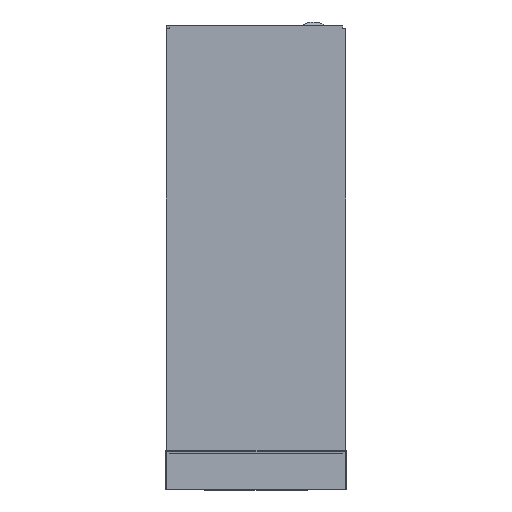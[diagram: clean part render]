
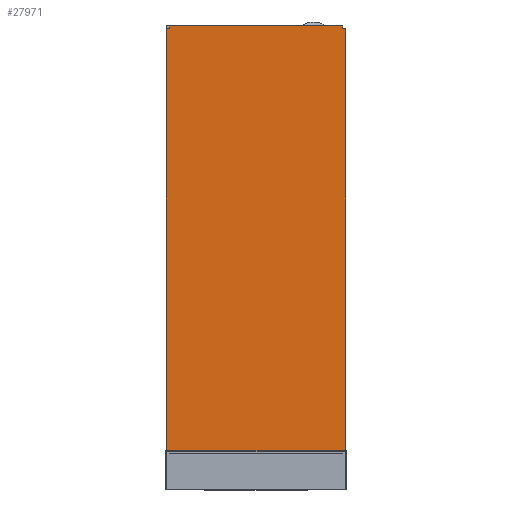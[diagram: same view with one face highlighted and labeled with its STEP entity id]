
A CAD part, left-side view. The second image highlights one B-rep face of the part: STEP entity #27971.
In plain terms, the highlighted planar face has unit normal (-1, 0, 0).
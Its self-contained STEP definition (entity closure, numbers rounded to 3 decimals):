
#27685=CARTESIAN_POINT('',(4.507,-787.008,176.06));
#27686=VERTEX_POINT('',#27685);
#27693=CARTESIAN_POINT('',(4.507,-787.008,163.06));
#27694=VERTEX_POINT('',#27693);
#27695=CARTESIAN_POINT('',(4.507,-787.008,163.06));
#27696=DIRECTION('',(0.0,0.0,1.0));
#27697=VECTOR('',#27696,13.);
#27698=LINE('',#27695,#27697);
#27699=EDGE_CURVE('',#27694,#27686,#27698,.T.);
#27715=CARTESIAN_POINT('',(4.507,-801.008,176.06));
#27716=VERTEX_POINT('',#27715);
#27733=CARTESIAN_POINT('',(4.507,-801.008,2050.06));
#27734=VERTEX_POINT('',#27733);
#27741=CARTESIAN_POINT('',(4.507,-801.008,2050.06));
#27742=DIRECTION('',(0.0,0.0,-1.0));
#27743=VECTOR('',#27742,1874.);
#27744=LINE('',#27741,#27743);
#27745=EDGE_CURVE('',#27734,#27716,#27744,.T.);
#27763=CARTESIAN_POINT('',(4.507,-801.008,176.06));
#27764=DIRECTION('',(0.0,1.0,0.0));
#27765=VECTOR('',#27764,14.0);
#27766=LINE('',#27763,#27765);
#27767=EDGE_CURVE('',#27716,#27686,#27766,.T.);
#27817=CARTESIAN_POINT('',(4.507,-17.007,163.06));
#27818=VERTEX_POINT('',#27817);
#27819=CARTESIAN_POINT('',(4.507,-17.007,176.06));
#27820=VERTEX_POINT('',#27819);
#27821=CARTESIAN_POINT('',(4.507,-17.007,163.06));
#27822=DIRECTION('',(0.0,0.0,1.0));
#27823=VECTOR('',#27822,13.);
#27824=LINE('',#27821,#27823);
#27825=EDGE_CURVE('',#27818,#27820,#27824,.T.);
#27857=CARTESIAN_POINT('',(4.507,-3.007,176.06));
#27858=VERTEX_POINT('',#27857);
#27859=CARTESIAN_POINT('',(4.507,-3.007,2050.06));
#27860=VERTEX_POINT('',#27859);
#27861=CARTESIAN_POINT('',(4.507,-3.007,176.06));
#27862=DIRECTION('',(0.0,0.0,1.0));
#27863=VECTOR('',#27862,1874.);
#27864=LINE('',#27861,#27863);
#27865=EDGE_CURVE('',#27858,#27860,#27864,.T.);
#27898=CARTESIAN_POINT('',(4.507,-3.007,176.06));
#27899=DIRECTION('',(0.0,-1.0,0.0));
#27900=VECTOR('',#27899,14.);
#27901=LINE('',#27898,#27900);
#27902=EDGE_CURVE('',#27858,#27820,#27901,.T.);
#27914=CARTESIAN_POINT('',(4.507,-1907.625,161.06));
#27915=DIRECTION('',(-1.0,0.0,0.0));
#27916=DIRECTION('',(0.0,-1.0,0.0));
#27917=AXIS2_PLACEMENT_3D('',#27914,#27915,#27916);
#27918=PLANE('',#27917);
#27919=CARTESIAN_POINT('',(4.507,-17.007,163.06));
#27920=DIRECTION('',(0.0,-1.0,0.0));
#27921=VECTOR('',#27920,770.);
#27922=LINE('',#27919,#27921);
#27923=EDGE_CURVE('',#27818,#27694,#27922,.T.);
#27924=ORIENTED_EDGE('',*,*,#27923,.T.);
#27925=ORIENTED_EDGE('',*,*,#27699,.T.);
#27926=ORIENTED_EDGE('',*,*,#27767,.F.);
#27927=ORIENTED_EDGE('',*,*,#27745,.F.);
#27928=CARTESIAN_POINT('',(4.507,-787.008,2050.06));
#27929=VERTEX_POINT('',#27928);
#27930=CARTESIAN_POINT('',(4.507,-801.008,2050.06));
#27931=DIRECTION('',(0.0,1.0,0.0));
#27932=VECTOR('',#27931,14.0);
#27933=LINE('',#27930,#27932);
#27934=EDGE_CURVE('',#27734,#27929,#27933,.T.);
#27935=ORIENTED_EDGE('',*,*,#27934,.T.);
#27936=CARTESIAN_POINT('',(4.507,-787.008,2063.06));
#27937=VERTEX_POINT('',#27936);
#27938=CARTESIAN_POINT('',(4.507,-787.008,2063.06));
#27939=DIRECTION('',(0.0,0.0,-1.0));
#27940=VECTOR('',#27939,13.0);
#27941=LINE('',#27938,#27940);
#27942=EDGE_CURVE('',#27937,#27929,#27941,.T.);
#27943=ORIENTED_EDGE('',*,*,#27942,.F.);
#27944=CARTESIAN_POINT('',(4.507,-17.007,2063.06));
#27945=VERTEX_POINT('',#27944);
#27946=CARTESIAN_POINT('',(4.507,-17.007,2063.06));
#27947=DIRECTION('',(0.0,-1.0,0.0));
#27948=VECTOR('',#27947,770.);
#27949=LINE('',#27946,#27948);
#27950=EDGE_CURVE('',#27945,#27937,#27949,.T.);
#27951=ORIENTED_EDGE('',*,*,#27950,.F.);
#27952=CARTESIAN_POINT('',(4.507,-17.007,2050.06));
#27953=VERTEX_POINT('',#27952);
#27954=CARTESIAN_POINT('',(4.507,-17.007,2063.06));
#27955=DIRECTION('',(0.0,0.0,-1.0));
#27956=VECTOR('',#27955,13.0);
#27957=LINE('',#27954,#27956);
#27958=EDGE_CURVE('',#27945,#27953,#27957,.T.);
#27959=ORIENTED_EDGE('',*,*,#27958,.T.);
#27960=CARTESIAN_POINT('',(4.507,-3.007,2050.06));
#27961=DIRECTION('',(0.0,-1.0,0.0));
#27962=VECTOR('',#27961,14.0);
#27963=LINE('',#27960,#27962);
#27964=EDGE_CURVE('',#27860,#27953,#27963,.T.);
#27965=ORIENTED_EDGE('',*,*,#27964,.F.);
#27966=ORIENTED_EDGE('',*,*,#27865,.F.);
#27967=ORIENTED_EDGE('',*,*,#27902,.T.);
#27968=ORIENTED_EDGE('',*,*,#27825,.F.);
#27969=EDGE_LOOP('',(#27924,#27925,#27926,#27927,#27935,#27943,#27951,#27959,#27965,#27966,#27967,#27968));
#27970=FACE_OUTER_BOUND('',#27969,.T.);
#27971=ADVANCED_FACE('',(#27970),#27918,.T.);
